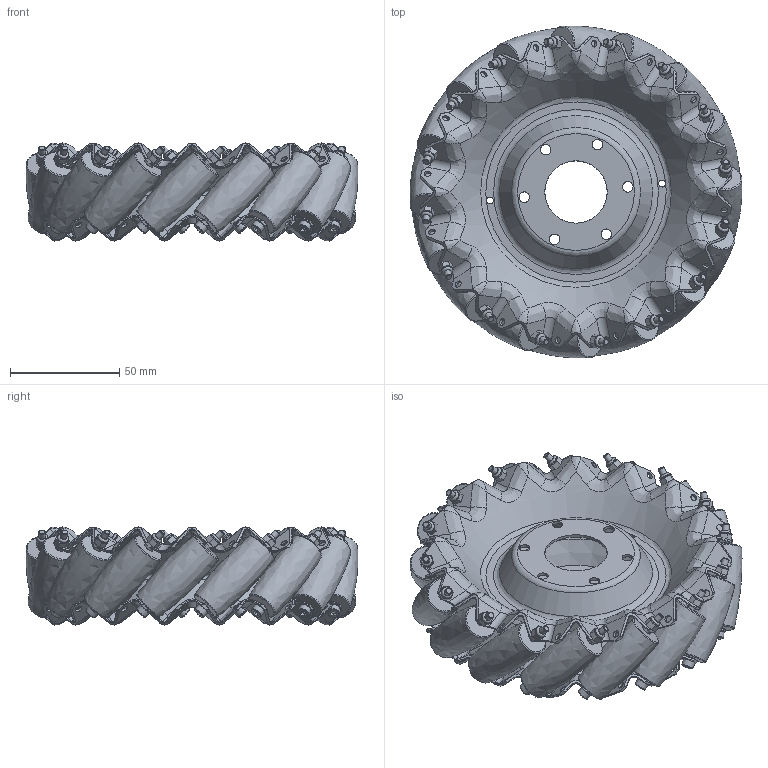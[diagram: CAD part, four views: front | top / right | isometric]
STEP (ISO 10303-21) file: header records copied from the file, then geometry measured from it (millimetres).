
FILE_DESCRIPTION(/* description */ (''),/* implementation_level */ '2;1');
FILE_NAME(/* name */ 'C:\Users\kakar\Desktop\071602\Mecanum\6-mecanum-3-Left.stp',/* time_stamp */ '2017-07-16T16:08:48+08:00',/* author */ ('kakar'),/* organization */ (''),/* preprocessor_version */ 'ST-DEVELOPER v16.5',/* originating_system */ 'Autodesk Inventor 2017',/* authorisation */ '');
FILE_SCHEMA (('AUTOMOTIVE_DESIGN { 1 0 10303 214 3 1 1 }'));
Products named in the file (5): 6-mecanum-3-Left; 6 mecanum plate 3; M - 3 x 0.5 x 50 SHCS_M - 3 x 0.5 x 50 SHCS; 1_6; M3-Nylock-Nut_2
Assembly tree (50 placements, depth 2):
  6-mecanum-3-Left
    1_6  x16
    M - 3 x 0.5 x 50 SHCS_M - 3 x 0.5 x 50 SHCS  x16
    M3-Nylock-Nut_2  x16
    6 mecanum plate 3  x2
Bounding box: 152.01 x 152.01 x 44.88 mm (x, y, z)
Volume: 181967.2 mm3; surface area: 136009.3 mm2
Topology: 50 solids, 50 shells, 1600 faces, 3886 edges, 2350 vertices
Faces by surface type: plane 556, bspline 464, cylinder 386, cone 120, torus 74
Full cylindrical faces by diameter (mm): 3 x32, 3.175 x68, 4.762 x16, 4.826 x12, 5.2 x16, 5.5 x16, 28.575 x2
Entity records: 47031 total; most frequent: CARTESIAN_POINT 35526, ORIENTED_EDGE 2526, DIRECTION 2068, EDGE_CURVE 1263, AXIS2_PLACEMENT_3D 949, VERTEX_POINT 806, EDGE_LOOP 675, FACE_OUTER_BOUND 527
